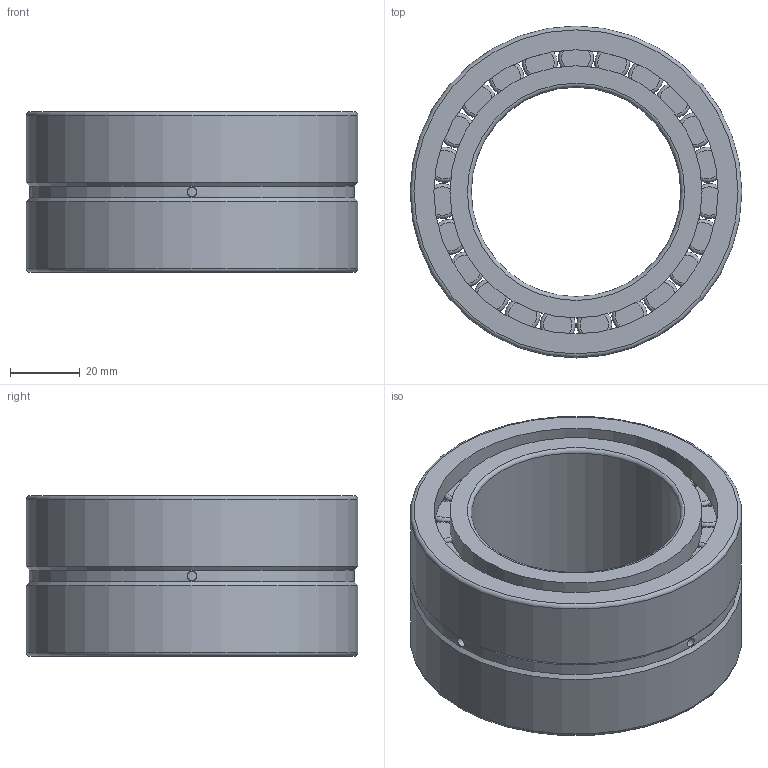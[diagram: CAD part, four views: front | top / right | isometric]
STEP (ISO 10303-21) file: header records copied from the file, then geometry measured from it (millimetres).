
FILE_DESCRIPTION(/* description */ (''),/* implementation_level */ '2;1');
FILE_NAME(/* name */ 'C:\Users\OUREHANEKD\Desktop\Ložiská\MODELY\JRVL\NNCF\NNCF50\NNCF50--\NNCF5012V.stp',/* time_stamp */ '2016-09-08T13:34:02+02:00',/* author */ ('OUREHANEKD'),/* organization */ (''),/* preprocessor_version */ 'ST-DEVELOPER v15.6',/* originating_system */ 'Autodesk Inventor 2015',/* authorisation */ '');
FILE_SCHEMA (('AUTOMOTIVE_DESIGN { 1 0 10303 214 3 1 1 }'));
Length unit declared in the file: millimetre
Products named in the file (5): NNCF5012V-01; NNCF5012V-02; NNCF5012V-kr; NNCF5012V-roller; NNCF5012V
Assembly tree (26 placements, depth 2):
  NNCF5012V
    NNCF5012V-01
    NNCF5012V-02
    NNCF5012V-kr
    NNCF5012V-roller  x23
Bounding box: 95 x 95 x 46 mm (x, y, z)
Volume: 151976.2 mm3; surface area: 84164.6 mm2
Topology: 49 solids, 49 shells, 267 faces, 386 edges, 224 vertices
Faces by surface type: plane 105, torus 96, cylinder 64, cone 2
Full cylindrical faces by diameter (mm): 2.76 x3, 10 x46, 60 x1, 66.8 x2, 72.2 x3, 81.4 x1, 83.5 x1, 86.8 x2, 88.3 x1, 89.8 x1, 93.16 x1, 95 x2
Entity records: 1440 total; most frequent: CARTESIAN_POINT 372, DIRECTION 240, AXIS2_PLACEMENT_3D 120, EDGE_LOOP 96, ORIENTED_EDGE 96, FACE_BOUND 49, VERTEX_POINT 48, EDGE_CURVE 48
